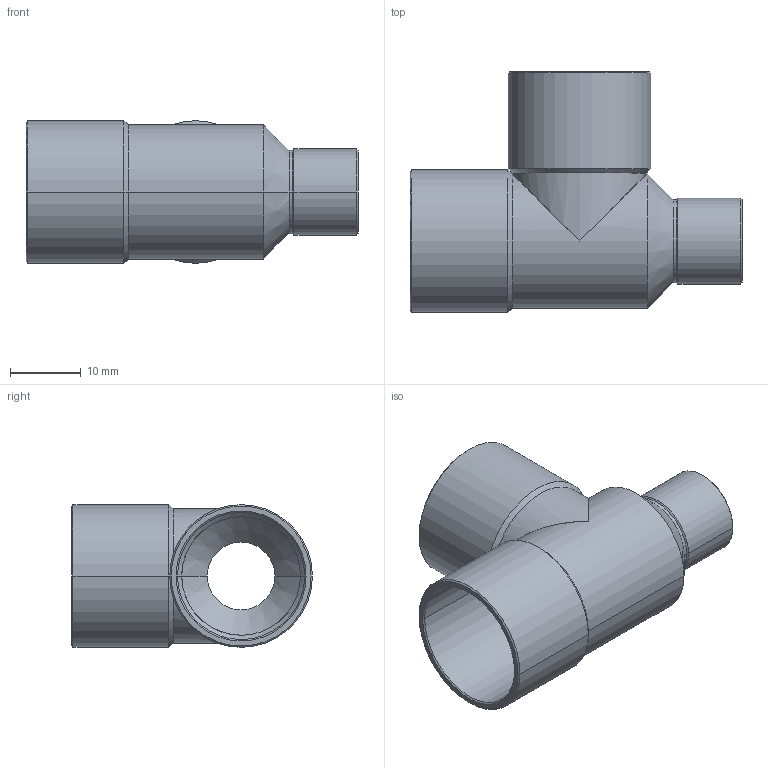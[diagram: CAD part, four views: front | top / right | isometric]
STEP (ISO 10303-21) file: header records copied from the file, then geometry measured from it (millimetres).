
FILE_DESCRIPTION((''),'2;1');
FILE_NAME('P:\Bouwmaten\z-maattekeningen 3D\5000\5130\5130181810.stp','2005-10-26T11:53:27',('Kris'),(''),'Autodesk Inventor 8','Autodesk Inventor 8','');
FILE_SCHEMA(('AUTOMOTIVE_DESIGN { 1 0 10303 214 1 1 1 1 }'));
Length unit declared in the file: millimetre
Products named in the file (1): 5130181810
Bounding box: 47 x 34.1 x 20.2 mm (x, y, z)
Volume: 3574 mm3; surface area: 6725.1 mm2
Topology: 1 solids, 1 shells, 59 faces, 134 edges, 68 vertices
Faces by surface type: cone 28, cylinder 24, bspline 4, plane 3
Entity records: 1999 total; most frequent: CARTESIAN_POINT 670, DIRECTION 308, ORIENTED_EDGE 252, AXIS2_PLACEMENT_3D 128, EDGE_CURVE 126, VERTEX_POINT 68, EDGE_LOOP 62, FACE_OUTER_BOUND 59
